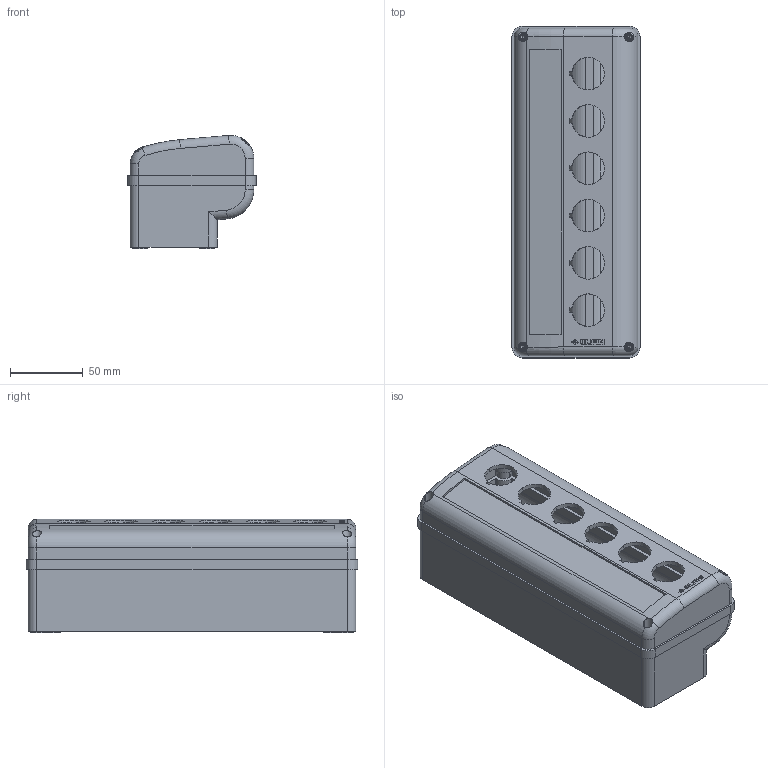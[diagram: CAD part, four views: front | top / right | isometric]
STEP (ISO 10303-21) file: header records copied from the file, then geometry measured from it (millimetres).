
FILE_DESCRIPTION (( 'STEP AP214' ), '1' );
FILE_NAME ('080E225-P6.STEP', '2026-02-09T15:06:45', ( '' ), ( '' ), 'SwSTEP 2.0', 'SolidWorks 2025', '' );
FILE_SCHEMA (( 'AUTOMOTIVE_DESIGN' ));
Length unit declared in the file: millimetre
Products named in the file (5): 225329-P6 - WEB; 10209 Vite TC ø3,5x24 Torx T15; 080E225-P6; 225333 - WEB; 224076A
Assembly tree (7 placements, depth 2):
  080E225-P6
    225333 - WEB
    224076A
    225329-P6 - WEB
    10209 Vite TC ø3,5x24 Torx T15  x4
Bounding box: 88 x 228 x 77.68 mm (x, y, z)
Volume: 233946.6 mm3; surface area: 168285.9 mm2
Topology: 7 solids, 7 shells, 705 faces, 1906 edges, 1244 vertices
Faces by surface type: cylinder 322, plane 287, bspline 44, cone 32, torus 20
Entity records: 18044 total; most frequent: CARTESIAN_POINT 5279, ORIENTED_EDGE 2788, DIRECTION 2455, EDGE_CURVE 1394, VERTEX_POINT 920, AXIS2_PLACEMENT_3D 842, LINE 771, VECTOR 771
